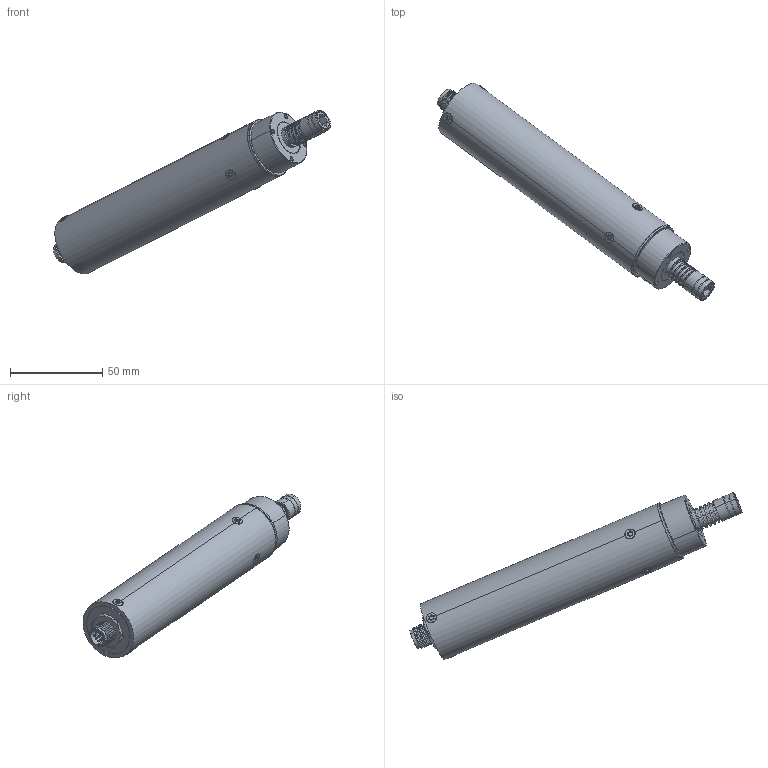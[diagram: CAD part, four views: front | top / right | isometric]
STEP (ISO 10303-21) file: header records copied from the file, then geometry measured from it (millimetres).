
FILE_DESCRIPTION (( 'STEP AP214' ), '1' );
FILE_NAME ('Mito 15CA_TA.STEP', '2013-10-28T07:24:03', ( '' ), ( '' ), 'SwSTEP 2.0', 'SolidWorks 2013', '' );
FILE_SCHEMA (( 'AUTOMOTIVE_DESIGN' ));
Length unit declared in the file: millimetre
Products named in the file (1): Mito 15CA_TA
Bounding box: 150.01 x 118.02 x 88.8 mm (x, y, z)
Volume: 48361.4 mm3; surface area: 42986.7 mm2
Topology: 20 solids, 20 shells, 546 faces, 1359 edges, 861 vertices
Faces by surface type: cylinder 306, plane 109, cone 72, bspline 32, torus 20, sphere 7
Entity records: 34980 total; most frequent: CARTESIAN_POINT 15996, DIRECTION 2739, ORIENTED_EDGE 2644, EDGE_CURVE 1322, AXIS2_PLACEMENT_3D 1133, VERTEX_POINT 849, CIRCLE 618, EDGE_LOOP 615
